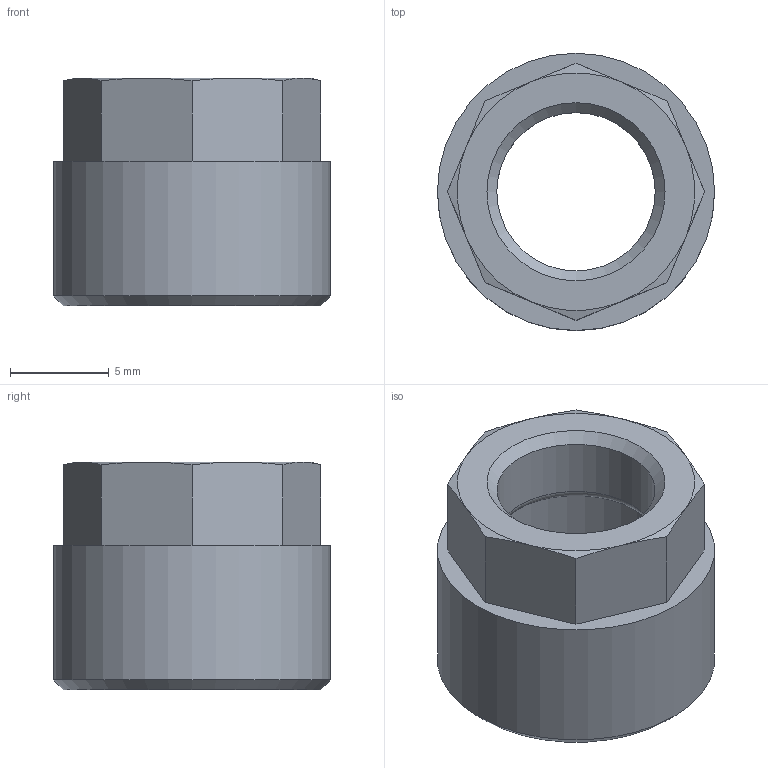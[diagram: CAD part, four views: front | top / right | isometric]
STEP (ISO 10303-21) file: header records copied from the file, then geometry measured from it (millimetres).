
FILE_DESCRIPTION(/* description */ (''),/* implementation_level */ '2;1');
FILE_NAME(/* name */ '17006_301_86_M12X1_15.08.17',/* time_stamp */ '2017-08-15T10:35:22+02:00',/* author */ (''),/* organization */ (''),/* preprocessor_version */ 'ST-DEVELOPER v16.5',/* originating_system */ 'HiCAD 2016 2102.2 Build 618',/* authorisation */ '');
FILE_SCHEMA (('AUTOMOTIVE_DESIGN { 1 0 10303 214 1 1 1 1 }'));
Length unit declared in the file: millimetre
Products named in the file (2): Root; 17006
Assembly tree (1 placements, depth 2):
  Root
    17006
Bounding box: 14 x 14 x 11.5 mm (x, y, z)
Volume: 731.4 mm3; surface area: 999 mm2
Topology: 1 solids, 1 shells, 27 faces, 63 edges, 40 vertices
Faces by surface type: cone 12, plane 11, cylinder 3, torus 1
Full cylindrical faces by diameter (mm): 8 x1, 10.773 x1, 14 x1
Entity records: 1236 total; most frequent: DIRECTION 142, CARTESIAN_POINT 114, PRESENTATION_STYLE_ASSIGNMENT 101, COLOUR_RGB 101, DRAUGHTING_PRE_DEFINED_CURVE_FONT 100, CURVE_STYLE 100, OVER_RIDING_STYLED_ITEM 100, ORIENTED_EDGE 100
